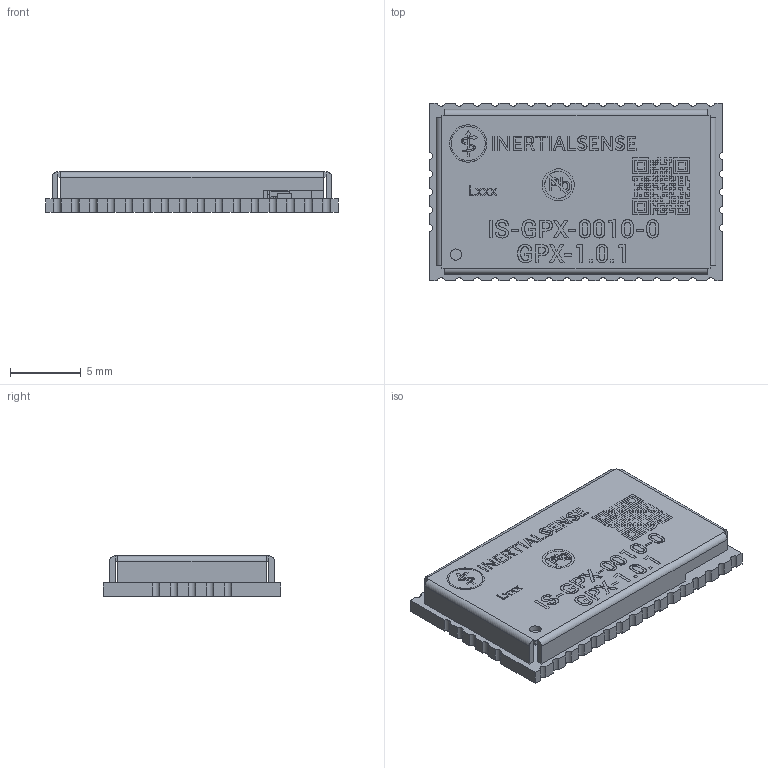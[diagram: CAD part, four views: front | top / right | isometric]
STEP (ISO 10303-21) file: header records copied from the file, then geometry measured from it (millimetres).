
FILE_DESCRIPTION(('Open CASCADE Model'),'2;1');
FILE_NAME('Open CASCADE Shape Model','2022-12-06T18:08:44',('Author'),( 'Open CASCADE'),'Open CASCADE STEP processor 7.5','Open CASCADE 7.5' ,'Unknown');
FILE_SCHEMA(('AUTOMOTIVE_DESIGN { 1 0 10303 214 1 1 1 1 }'));
Length unit declared in the file: millimetre
Products named in the file (50): PCB; Board; Open CASCADE STEP translator 7.5 4.1.1; U6; 6279293568; Extruded; 6279293408; SHLD1; Shield GPX-r1.0.1 v48; Can; U9; TI_YZT(R-XBGA-N8); Y3; 6228706336; Body; bigPin; Y1; ECS_ECS-TXO-2016; U5; 6228704256; Open CASCADE STEP translator 6.8 5.1; Open CASCADE STEP translator 6.8 5.2.1; ball; U4; TI_YKE0004(DSBGA); U11B; 6228704736; Open CASCADE STEP translator 7.5 6.1; Open CASCADE STEP translator 7.5 6.2.1; U11A; Y2; U3; U1; 6228705376; U10B; 6228705856; Open CASCADE STEP translator 6.8 1.1; Open CASCADE STEP translator 6.8 1.2.1; U10A; U2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
Assembly tree (118 placements, depth 5):
  PCB
    Board
      Open CASCADE STEP translator 7.5 4.1.1
    U6
      6279293568
        Extruded
      6279293408
        Extruded
    SHLD1
      Shield GPX-r1.0.1 v48
        Can
    U9
      TI_YZT(R-XBGA-N8)
    Y3
      6228706336
        Body
        bigPin  x2
    Y1
      ECS_ECS-TXO-2016
    U5
      6228704256
        Open CASCADE STEP translator 6.8 5.1
        Body
          Open CASCADE STEP translator 6.8 5.2.1
        ball  x4
    U4
      TI_YKE0004(DSBGA)
    U11B
      6228704736
        Open CASCADE STEP translator 7.5 6.1
        Body
          Open CASCADE STEP translator 7.5 6.2.1
    U11A
      6228704736
        Open CASCADE STEP translator 7.5 6.1
        Body
          Open CASCADE STEP translator 7.5 6.2.1
    Y2
      ECS_ECS-TXO-2016
    U3
      6279293568
        Extruded
      6279293408
        Extruded
    U1
      6228705376
    U10B
      6228705856
        Open CASCADE STEP translator 6.8 1.1
        Body
          Open CASCADE STEP translator 6.8 1.2.1
        ball  x56
    U10A
      6228705856
        Open CASCADE STEP translator 6.8 1.1
        Body
          Open CASCADE STEP translator 6.8 1.2.1
        ball  x56
    U2
      6228705216
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Bounding box: 20.65 x 12.5 x 2.87 mm (x, y, z)
Volume: 390.8 mm3; surface area: 1443.7 mm2
Topology: 247 solids, 253 shells, 1782 faces, 4756 edges, 3094 vertices
Faces by surface type: plane 1168, bspline 244, sphere 236, cylinder 126, torus 8
Full cylindrical faces by diameter (mm): 0.099 x1, 0.11 x1, 0.144 x2, 0.198 x1, 0.458 x2, 0.8 x1
Entity records: 49326 total; most frequent: CARTESIAN_POINT 10595, ORIENTED_EDGE 7610, DIRECTION 6352, EDGE_CURVE 3807, LINE 3072, VECTOR 3072, VERTEX_POINT 2573, FACE_BOUND 1653
